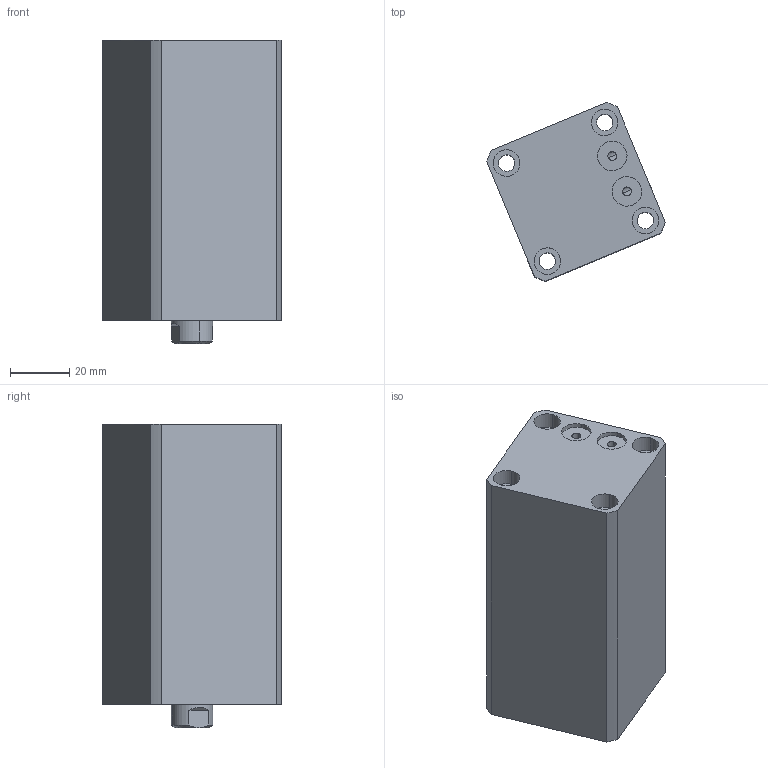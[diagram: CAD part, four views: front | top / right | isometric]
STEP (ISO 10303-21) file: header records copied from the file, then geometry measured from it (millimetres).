
FILE_DESCRIPTION (( 'STEP AP214' ), '1' );
FILE_NAME ('chtb-sdmb25x50n_asm.STEP', '2018-05-24T01:38:04', ( 'Windows' ), ( 'Microsoft' ), 'SwSTEP 2.0', 'SolidWorks 2015', '' );
FILE_SCHEMA (( 'AUTOMOTIVE_DESIGN' ));
Length unit declared in the file: millimetre
Products named in the file (4): CHTB-SDMB25X50NHSG; CHTB-SDMB25X50NBT; CHTB-25QG; chtb-sdmb25x50n_asm
Assembly tree (3 placements, depth 2):
  chtb-sdmb25x50n_asm
    CHTB-25QG
    CHTB-SDMB25X50NBT
    CHTB-SDMB25X50NHSG
Bounding box: 60.55 x 60.55 x 103 mm (x, y, z)
Volume: 187101.7 mm3; surface area: 49192.9 mm2
Topology: 3 solids, 3 shells, 142 faces, 379 edges, 257 vertices
Faces by surface type: cylinder 89, plane 34, bspline 10, cone 9
Entity records: 8024 total; most frequent: CARTESIAN_POINT 4397, ORIENTED_EDGE 746, DIRECTION 661, EDGE_CURVE 373, AXIS2_PLACEMENT_3D 272, VERTEX_POINT 257, EDGE_LOOP 180, ADVANCED_FACE 142
